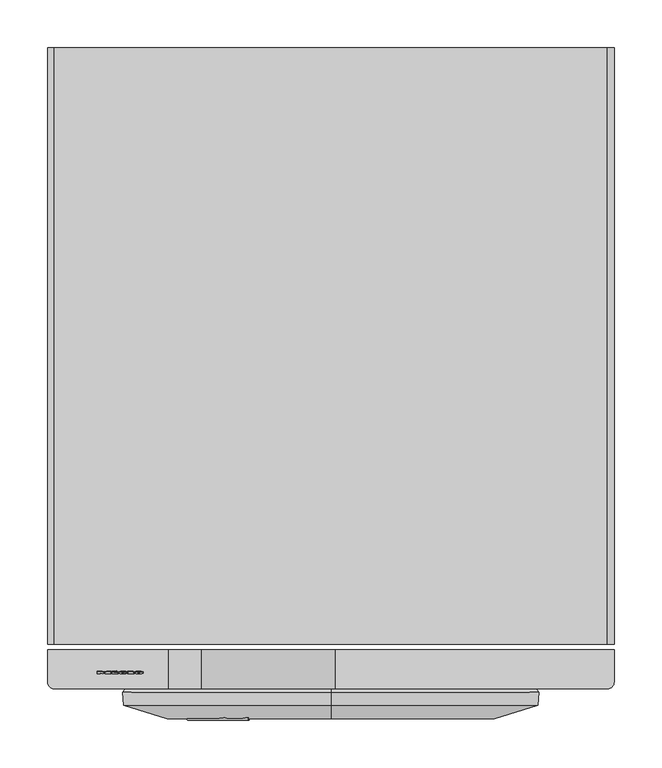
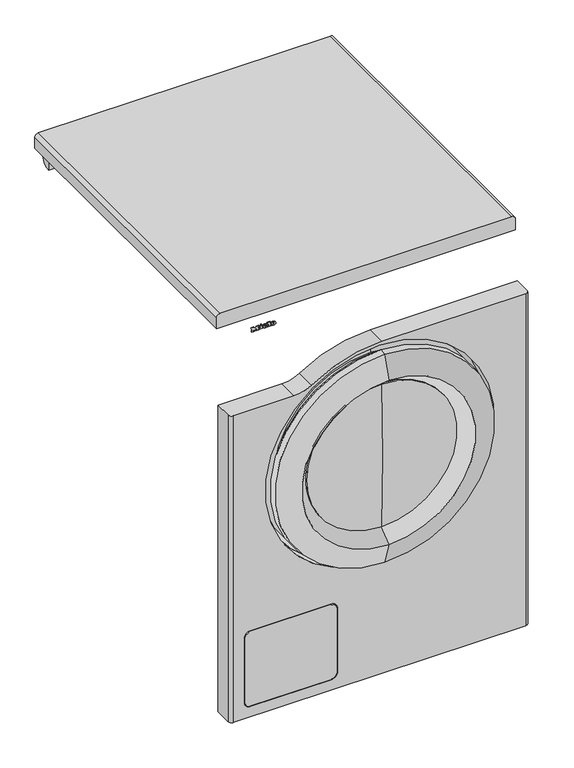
"""IFC4 building model written with IfcOpenShell, lengths in millimetres: proxy geometry, 11073250_S_PWM906DV_LW : 51906252_S_11073250_PWM906DV_LW."""

from ifc_helpers import new_model, si_unit, point, frame, frame_2d, origin, place, context, project, spatial, polyline, circle_curve, ellipse_curve, trimmed, segment, composite_curve, outline, extrude, source, transform, mapped, element, save
from ifc_brep_helpers import plane_surface, cylinder_surface, revolved_surface, extruded_surface, advanced_brep


def specialty_equipment_5f2c54f2(model_context):
    return source(origin(), model_context, "Body", "SolidModel", [
        advanced_brep(
        [(298.0, -637.0, 712.0), (298.0, -637.0, 13.5), (-298.0, -637.0, 13.5), (-298.0, -637.0, 659.0), (-170.4793435, -637.0, 659.0), (-135.8816811, -637.0, 669.4495268), (5.0, -637.0, 712.0), (0.0, -637.0, 628.0), (0.0, -637.0, 328.0), (-97.8720399, -637.0, 194.7938843), (-257.5266894, -637.0, 194.7938843), (-269.1610931, -637.0, 183.1594806), (-269.1610931, -637.0, 47.2319133), (-257.1610931, -637.0, 35.2319133), (-96.1598327, -637.0, 35.2319133), (-84.1993866, -637.0, 47.1923594), (-84.1993866, -637.0, 184.6186728), (-291.0, -678.0, 13.5), (291.0, -678.0, 13.5), (291.0, -678.0, 712.0), (5.0, -678.0, 712.0), (-135.8816811, -678.0, 669.4495268), (-170.4793435, -678.0, 659.0), (-291.0, -678.0, 659.0), (0.0, -678.0, 250.5), (0.0, -678.0, 705.5), (-257.5266894, -678.0, 194.7938843), (-97.8720399, -678.0, 194.7938843), (-84.1993866, -678.0, 184.6186728), (-84.1993866, -678.0, 47.1923594), (-96.1598327, -678.0, 35.2319133), (-257.1610931, -678.0, 35.2319133), (-269.1610931, -678.0, 47.2319133), (-269.1610931, -678.0, 183.1594806), (298.0, -671.0, 712.0), (-298.0, -671.0, 13.5), (-298.0, -671.0, 659.0), (298.0, -671.0, 13.5), (0.0, -653.2, 705.5), (0.0, -653.2, 250.5), (0.0, -645.7, 671.0), (0.0, -645.7, 698.0), (0.0, -645.7, 258.0), (0.0, -645.7, 285.0), (0.0, -638.7, 289.0414519), (0.0, -638.7, 666.9585481), (0.0, -638.7, 322.8), (0.0, -638.7, 633.2), (0.0, -648.5, 322.8), (0.0, -648.5, 633.2), (0.0, -648.5, 341.8), (0.0, -648.5, 614.2), (0.0, -646.0, 341.8), (0.0, -646.0, 614.2), (0.0, -646.0, 328.0), (0.0, -646.0, 628.0)],
        [
            (0, 1),
            (1, 2),
            (2, 3),
            (3, 4),
            (4, 5, circle_curve(frame((-170.4793435, -637.0, 721.5), z_axis=(0.0, -1.0, 0.0), x_axis=(1.0, 0.0, 0.0)), 62.5)),
            (5, 6, circle_curve(frame((5.0, -637.0, 457.5), z_axis=(0.0, 1.0, 0.0), x_axis=(1.0, 0.0, 0.0)), 254.5)),
            (6, 0),
            (7, 8, circle_curve(frame((0.0, -637.0, 478.0), z_axis=(0.0, -1.0, 0.0), x_axis=(0.0, 0.0, -1.0)), 150.0)),
            (8, 7, circle_curve(frame((0.0, -637.0, 478.0), z_axis=(0.0, -1.0, 0.0), x_axis=(0.0, 0.0, -1.0)), 150.0)),
            (9, 10),
            (10, 11, circle_curve(frame((-257.5266894, -637.0, 183.1594806), z_axis=(0.0, -1.0, 0.0), x_axis=(1.0, 0.0, 0.0)), 11.6344037)),
            (11, 12),
            (12, 13, circle_curve(frame((-257.1610931, -637.0, 47.2319133), z_axis=(0.0, -1.0, 0.0), x_axis=(1.0, 0.0, 0.0)), 12.0)),
            (13, 14),
            (14, 15, circle_curve(frame((-96.1598327, -637.0, 47.1923594), z_axis=(0.0, -1.0, 0.0), x_axis=(1.0, 0.0, 0.0)), 11.9604461)),
            (15, 16),
            (16, 9, circle_curve(frame((-97.8720399, -637.0, 180.5201576), z_axis=(0.0, -1.0, 0.0), x_axis=(1.0, 0.0, 0.0)), 14.2737268)),
            (17, 18),
            (18, 19),
            (19, 20),
            (20, 21, circle_curve(frame((5.0, -678.0, 457.5), z_axis=(0.0, -1.0, 0.0), x_axis=(1.0, 0.0, 0.0)), 254.5)),
            (21, 22, circle_curve(frame((-170.4793435, -678.0, 721.5), z_axis=(0.0, 1.0, 0.0), x_axis=(1.0, 0.0, 0.0)), 62.5)),
            (22, 23),
            (23, 17),
            (24, 25, circle_curve(frame((0.0, -678.0, 478.0), z_axis=(0.0, 1.0, 0.0), x_axis=(0.0, 0.0, -1.0)), 227.5)),
            (25, 24, circle_curve(frame((0.0, -678.0, 478.0), z_axis=(0.0, 1.0, 0.0), x_axis=(0.0, 0.0, -1.0)), 227.5)),
            (26, 27),
            (27, 28, circle_curve(frame((-97.8720399, -678.0, 180.5201576), z_axis=(0.0, 1.0, 0.0), x_axis=(1.0, 0.0, 0.0)), 14.2737268)),
            (28, 29),
            (29, 30, circle_curve(frame((-96.1598327, -678.0, 47.1923594), z_axis=(0.0, 1.0, 0.0), x_axis=(1.0, 0.0, 0.0)), 11.9604461)),
            (30, 31),
            (31, 32, circle_curve(frame((-257.1610931, -678.0, 47.2319133), z_axis=(0.0, 1.0, 0.0), x_axis=(1.0, 0.0, 0.0)), 12.0)),
            (32, 33),
            (33, 26, circle_curve(frame((-257.5266894, -678.0, 183.1594806), z_axis=(0.0, 1.0, 0.0), x_axis=(1.0, 0.0, 0.0)), 11.6344037)),
            (34, 0),
            (6, 20),
            (19, 34, circle_curve(frame((291.0, -671.0, 712.0), z_axis=(0.0, 0.0, 1.0), x_axis=(-1.0, 0.0, 0.0)), 7.0)),
            (2, 35),
            (35, 36),
            (36, 3),
            (1, 37),
            (37, 18, circle_curve(frame((291.0, -671.0, 13.5), z_axis=(0.0, 0.0, -1.0), x_axis=(-1.0, 0.0, 0.0)), 7.0)),
            (17, 35, circle_curve(frame((-291.0, -671.0, 13.5), z_axis=(0.0, 0.0, -1.0), x_axis=(-1.0, 0.0, 0.0)), 7.0)),
            (34, 37),
            (38, 25),
            (24, 39),
            (39, 38, circle_curve(frame((0.0, -653.2, 478.0), z_axis=(0.0, 1.0, 0.0), x_axis=(0.0, 0.0, -1.0)), 227.5)),
            (38, 39, circle_curve(frame((0.0, -653.2, 478.0), z_axis=(0.0, 1.0, 0.0), x_axis=(0.0, 0.0, -1.0)), 227.5)),
            (40, 41),
            (41, 42, circle_curve(frame((0.0, -645.7, 478.0), z_axis=(0.0, -1.0, 0.0), x_axis=(0.0, 0.0, -1.0)), 220.0)),
            (42, 43),
            (43, 40, circle_curve(frame((0.0, -645.7, 478.0), z_axis=(0.0, 1.0, 0.0), x_axis=(0.0, 0.0, -1.0)), 193.0)),
            (40, 43, circle_curve(frame((0.0, -645.7, 478.0), z_axis=(0.0, 1.0, 0.0), x_axis=(0.0, 0.0, -1.0)), 193.0)),
            (42, 41, circle_curve(frame((0.0, -645.7, 478.0), z_axis=(0.0, -1.0, 0.0), x_axis=(0.0, 0.0, -1.0)), 220.0)),
            (43, 44),
            (44, 45, circle_curve(frame((0.0, -638.7, 478.0), z_axis=(0.0, 1.0, 0.0), x_axis=(0.0, 0.0, -1.0)), 188.9585481)),
            (45, 40),
            (45, 44, circle_curve(frame((0.0, -638.7, 478.0), z_axis=(0.0, 1.0, 0.0), x_axis=(0.0, 0.0, -1.0)), 188.9585481)),
            (44, 46),
            (46, 47, circle_curve(frame((0.0, -638.7, 478.0), z_axis=(0.0, 1.0, 0.0), x_axis=(0.0, 0.0, -1.0)), 155.2)),
            (47, 45),
            (47, 46, circle_curve(frame((0.0, -638.7, 478.0), z_axis=(0.0, 1.0, 0.0), x_axis=(0.0, 0.0, -1.0)), 155.2)),
            (46, 48),
            (48, 49, circle_curve(frame((0.0, -648.5, 478.0), z_axis=(0.0, 1.0, 0.0), x_axis=(0.0, 0.0, -1.0)), 155.2)),
            (49, 47),
            (49, 48, circle_curve(frame((0.0, -648.5, 478.0), z_axis=(0.0, 1.0, 0.0), x_axis=(0.0, 0.0, -1.0)), 155.2)),
            (48, 50),
            (50, 51, circle_curve(frame((0.0, -648.5, 478.0), z_axis=(0.0, 1.0, 0.0), x_axis=(0.0, 0.0, -1.0)), 136.2)),
            (51, 49),
            (51, 50, circle_curve(frame((0.0, -648.5, 478.0), z_axis=(0.0, 1.0, 0.0), x_axis=(0.0, 0.0, -1.0)), 136.2)),
            (50, 52),
            (52, 53, circle_curve(frame((0.0, -646.0, 478.0), z_axis=(0.0, 1.0, 0.0), x_axis=(0.0, 0.0, -1.0)), 136.2)),
            (53, 51),
            (53, 52, circle_curve(frame((0.0, -646.0, 478.0), z_axis=(0.0, 1.0, 0.0), x_axis=(0.0, 0.0, -1.0)), 136.2)),
            (52, 54),
            (54, 55, circle_curve(frame((0.0, -646.0, 478.0), z_axis=(0.0, 1.0, 0.0), x_axis=(0.0, 0.0, -1.0)), 150.0)),
            (55, 53),
            (55, 54, circle_curve(frame((0.0, -646.0, 478.0), z_axis=(0.0, 1.0, 0.0), x_axis=(0.0, 0.0, -1.0)), 150.0)),
            (54, 8),
            (7, 55),
            (39, 42, circle_curve(frame((0.0, -653.2, 258.0), z_axis=(1.0, 0.0, 0.0), x_axis=(0.0, 1.0, 0.0)), 7.5)),
            (41, 38, circle_curve(frame((0.0, -653.2, 698.0), z_axis=(1.0, 0.0, 0.0), x_axis=(0.0, 1.0, 0.0)), 7.5)),
            (23, 36, circle_curve(frame((-291.0, -671.0, 659.0), z_axis=(0.0, 0.0, -1.0), x_axis=(-1.0, 0.0, 0.0)), 7.0)),
            (5, 21),
            (4, 22),
            (26, 10),
            (9, 27),
            (33, 11),
            (32, 12),
            (31, 13),
            (30, 14),
            (29, 15),
            (28, 16),
        ],
        [
            plane_surface(frame((-298.0, -637.0, 712.0), z_axis=(0.0, 1.0, 0.0), x_axis=(1.0, 0.0, 0.0))),
            plane_surface(frame((-298.0, -678.0, 712.0), z_axis=(0.0, -1.0, 0.0), x_axis=(-1.0, 0.0, 0.0))),
            plane_surface(frame((298.0, -678.0, 712.0), z_axis=(0.0, 0.0, 1.0), x_axis=(0.0, 1.0, 0.0))),
            plane_surface(frame((-298.0, -678.0, 712.0), z_axis=(-1.0, 0.0, 0.0), x_axis=(0.0, 1.0, 0.0))),
            plane_surface(frame((-298.0, -678.0, 13.5), z_axis=(0.0, 0.0, -1.0), x_axis=(0.0, 1.0, 0.0))),
            plane_surface(frame((298.0, -678.0, 13.5), z_axis=(1.0, 0.0, 0.0), x_axis=(0.0, 1.0, 0.0))),
            revolved_surface(polyline([(0.0, -653.2000000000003, 250.5), (0.0, -678.0, 250.5)]), (0.0, 1543.3738435, 478.0), (0.0, 1.0, 0.0)),
            plane_surface(frame((0.0, -645.7, 478.0), z_axis=(0.0, -1.0, 0.0), x_axis=(0.0, 0.0, -1.0))),
            revolved_surface(polyline([(0.0, -638.7, 289.0414519), (0.0, -645.7, 285.0)]), (0.0, 1543.3738435, 478.0), (0.0, 1.0, 0.0)),
            plane_surface(frame((0.0, -638.7, 478.0), z_axis=(0.0, -1.0, 0.0), x_axis=(0.0, 0.0, -1.0))),
            cylinder_surface(frame((0.0, 1543.3738435, 478.0), z_axis=(0.0, 1.0, 0.0), x_axis=(0.0, 0.0, -1.0)), 155.2),
            plane_surface(frame((0.0, -648.5, 478.0), z_axis=(0.0, -1.0, 0.0), x_axis=(0.0, 0.0, -1.0))),
            revolved_surface(polyline([(0.0, -646.0, 341.8), (0.0, -648.5, 341.8)]), (0.0, 1543.3738435, 478.0), (0.0, 1.0, 0.0)),
            plane_surface(frame((0.0, -646.0, 478.0), z_axis=(0.0, 1.0, 0.0), x_axis=(0.0, 0.0, -1.0))),
            revolved_surface(polyline([(0.0, -637.0, 328.0), (0.0, -646.0, 328.0)]), (0.0, 1543.3738435, 478.0), (0.0, 1.0, 0.0)),
            revolved_surface(trimmed(ellipse_curve(frame((0.0, -653.2, 258.0), z_axis=(-1.0, 0.0, 0.0), x_axis=(0.0, 1.0, 0.0)), 7.5, 7.5), [point((0.0, -645.7, 258.0))], [point((0.0, -653.2, 250.5))], True, "CARTESIAN"), (0.0, 1543.3738435, 478.0), (0.0, 1.0, 0.0)),
            cylinder_surface(frame((-291.0, -671.0, 712.0), z_axis=(0.0, 0.0, -1.0), x_axis=(-1.0, 0.0, 0.0)), 7.0),
            cylinder_surface(frame((291.0, -671.0, 712.0), z_axis=(0.0, 0.0, -1.0), x_axis=(-1.0, 0.0, 0.0)), 7.0),
            cylinder_surface(frame((5.0, -637.0, 457.5), z_axis=(0.0, 1.0, 0.0), x_axis=(1.0, 0.0, 0.0)), 254.5),
            revolved_surface(polyline([(-107.9793435, -678.0, 721.5), (-107.9793435, -637.0, 721.5)]), (-170.4793435, -637.0, 721.5), (0.0, -1.0, 0.0)),
            plane_surface(frame((-298.0, -678.0, 659.0), z_axis=(0.0, 0.0, 1.0), x_axis=(0.0, 1.0, 0.0))),
            plane_surface(frame((-97.8720399, -678.0, 194.7938843), z_axis=(0.0, 0.0, -1.0), x_axis=(0.0, 1.0, 0.0))),
            revolved_surface(polyline([(-245.8922857, -678.0, 183.1594806), (-245.8922857, -637.0, 183.1594806)]), (-257.5266894, -637.0, 183.1594806), (0.0, -1.0, 0.0)),
            plane_surface(frame((-269.1610931, -678.0, 183.1594806), z_axis=(1.0, 0.0, 0.0), x_axis=(0.0, 1.0, 0.0))),
            revolved_surface(polyline([(-245.16109310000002, -678.0, 47.2319133), (-245.16109310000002, -637.0, 47.2319133)]), (-257.1610931, -637.0, 47.2319133), (0.0, -1.0, 0.0)),
            plane_surface(frame((-257.1610931, -678.0, 35.2319133), z_axis=(0.0, 0.0, 1.0), x_axis=(0.0, 1.0, 0.0))),
            revolved_surface(polyline([(-84.1993866, -678.0, 47.1923594), (-84.1993866, -637.0, 47.1923594)]), (-96.1598327, -637.0, 47.1923594), (0.0, -1.0, 0.0)),
            plane_surface(frame((-84.1993866, -678.0, 47.1923594), z_axis=(-1.0, 0.0, 0.0), x_axis=(0.0, 1.0, 0.0))),
            revolved_surface(polyline([(-83.5983131, -678.0, 180.5201576), (-83.5983131, -637.0, 180.5201576)]), (-97.8720399, -637.0, 180.5201576), (0.0, -1.0, 0.0)),
        ],
        [
            (0, [[1, 2, 3, 4, 5, 6, 7], [8, 9], [10, 11, 12, 13, 14, 15, 16, 17]]),
            (1, [[18, 19, 20, 21, 22, 23, 24], [25, 26], [27, 28, 29, 30, 31, 32, 33, 34]]),
            (2, [[35, -7, 36, -20, 37]]),
            (3, [[38, 39, 40, -3]]),
            (4, [[-2, 41, 42, -18, 43, -38]]),
            (5, [[-1, -35, 44, -41]]),
            (6, [[45, -25, 46, 47]]),
            (6, [[-45, 48, -46, -26]]),
            (7, [[49, 50, 51, 52]]),
            (7, [[-49, 53, -51, 54]]),
            (8, [[-52, 55, 56, 57]]),
            (8, [[-53, -57, 58, -55]]),
            (9, [[-56, 59, 60, 61]]),
            (9, [[-58, -61, 62, -59]]),
            (10, [[-60, 63, 64, 65]]),
            (10, [[-62, -65, 66, -63]]),
            (11, [[-64, 67, 68, 69]]),
            (11, [[-66, -69, 70, -67]]),
            (12, [[-68, 71, 72, 73]]),
            (12, [[-70, -73, 74, -71]]),
            (13, [[-72, 75, 76, 77]]),
            (13, [[-74, -77, 78, -75]]),
            (14, [[-76, 79, -8, 80]]),
            (14, [[-78, -80, -9, -79]]),
            (15, [[-47, 81, -50, 82]]),
            (15, [[-48, -82, -54, -81]]),
            (16, [[-43, -24, 83, -39]]),
            (17, [[-19, -42, -44, -37]]),
            (18, [[84, -21, -36, -6]]),
            (19, [[-84, -5, 85, -22]]),
            (20, [[-85, -4, -40, -83, -23]]),
            (21, [[86, -10, 87, -27]]),
            (22, [[-86, -34, 88, -11]]),
            (23, [[-88, -33, 89, -12]]),
            (24, [[-89, -32, 90, -13]]),
            (25, [[-90, -31, 91, -14]]),
            (26, [[-91, -30, 92, -15]]),
            (27, [[-92, -29, 93, -16]]),
            (28, [[-87, -17, -93, -28]]),
        ],
    ),
        advanced_brep(
        [(-85.1993866, -637.0, 178.871588), (-85.1993866, -637.0, 49.2598644), (-98.2273377, -637.0, 36.2319133), (-257.1610931, -637.0, 36.2319133), (-268.1610931, -637.0, 47.2319133), (-268.1610931, -637.0, 180.922098), (-255.2893068, -637.0, 193.7938843), (-99.0652877, -637.0, 193.7938843), (-85.1993866, -678.0, 49.2598644), (-85.1993866, -678.0, 178.871588), (-99.0652877, -678.0, 193.7938843), (-255.2893068, -678.0, 193.7938843), (-268.1610931, -678.0, 180.922098), (-268.1610931, -678.0, 47.2319133), (-257.1610931, -678.0, 36.2319133), (-98.2273377, -678.0, 36.2319133)],
        [
            (0, 1),
            (1, 2, circle_curve(frame((-98.2273377, -637.0, 49.2598644), z_axis=(0.0, 1.0, 0.0), x_axis=(1.0, 0.0, 0.0)), 13.0279511)),
            (2, 3),
            (3, 4, circle_curve(frame((-257.1610931, -637.0, 47.2319133), z_axis=(0.0, 1.0, 0.0), x_axis=(1.0, 0.0, 0.0)), 11.0)),
            (4, 5),
            (5, 6, circle_curve(frame((-255.2893068, -637.0, 180.922098), z_axis=(0.0, 1.0, 0.0), x_axis=(1.0, 0.0, 0.0)), 12.8717863)),
            (6, 7),
            (7, 0, circle_curve(frame((-99.9078885, -637.0, 179.10764), z_axis=(0.0, 1.0, 0.0), x_axis=(1.0, 0.0, 0.0)), 14.7103959)),
            (8, 9),
            (9, 10, circle_curve(frame((-99.9078885, -678.0, 179.10764), z_axis=(0.0, -1.0, 0.0), x_axis=(1.0, 0.0, 0.0)), 14.7103959)),
            (10, 11),
            (11, 12, circle_curve(frame((-255.2893068, -678.0, 180.922098), z_axis=(0.0, -1.0, 0.0), x_axis=(1.0, 0.0, 0.0)), 12.8717863)),
            (12, 13),
            (13, 14, circle_curve(frame((-257.1610931, -678.0, 47.2319133), z_axis=(0.0, -1.0, 0.0), x_axis=(1.0, 0.0, 0.0)), 11.0)),
            (14, 15),
            (15, 8, circle_curve(frame((-98.2273377, -678.0, 49.2598644), z_axis=(0.0, -1.0, 0.0), x_axis=(1.0, 0.0, 0.0)), 13.0279511)),
            (8, 1),
            (0, 9),
            (15, 2),
            (14, 3),
            (13, 4),
            (12, 5),
            (11, 6),
            (10, 7),
        ],
        [
            plane_surface(frame((-298.0, -637.0, 712.0), z_axis=(0.0, 1.0, 0.0), x_axis=(1.0, 0.0, 0.0))),
            plane_surface(frame((-298.0, -678.0, 712.0), z_axis=(0.0, -1.0, 0.0), x_axis=(-1.0, 0.0, 0.0))),
            plane_surface(frame((-85.1993866, -678.0, 178.871588), z_axis=(1.0, 0.0, 0.0), x_axis=(0.0, 1.0, 0.0))),
            cylinder_surface(frame((-98.2273377, 0.0, 49.2598644), z_axis=(0.0, 1.0, 0.0), x_axis=(1.0, 0.0, 0.0)), 13.0279511),
            plane_surface(frame((-98.2273377, -678.0, 36.2319133), z_axis=(0.0, 0.0, -1.0), x_axis=(0.0, 1.0, 0.0))),
            cylinder_surface(frame((-257.1610931, 0.0, 47.2319133), z_axis=(0.0, 1.0, 0.0), x_axis=(1.0, 0.0, 0.0)), 11.0),
            plane_surface(frame((-268.1610931, -678.0, 47.2319133), z_axis=(-1.0, 0.0, 0.0), x_axis=(0.0, 1.0, 0.0))),
            cylinder_surface(frame((-255.2893068, 0.0, 180.922098), z_axis=(0.0, 1.0, 0.0), x_axis=(1.0, 0.0, 0.0)), 12.8717863),
            plane_surface(frame((-255.2893068, -678.0, 193.7938843), z_axis=(0.0, 0.0, 1.0), x_axis=(0.0, 1.0, 0.0))),
            cylinder_surface(frame((-99.9078885, 0.0, 179.10764), z_axis=(0.0, 1.0, 0.0), x_axis=(1.0, 0.0, 0.0)), 14.7103959),
        ],
        [
            (0, [[1, 2, 3, 4, 5, 6, 7, 8]]),
            (1, [[9, 10, 11, 12, 13, 14, 15, 16]]),
            (2, [[17, -1, 18, -9]]),
            (3, [[-17, -16, 19, -2]]),
            (4, [[-19, -15, 20, -3]]),
            (5, [[-20, -14, 21, -4]]),
            (6, [[-21, -13, 22, -5]]),
            (7, [[-22, -12, 23, -6]]),
            (8, [[-23, -11, 24, -7]]),
            (9, [[-18, -8, -24, -10]]),
        ],
    ),
        advanced_brep(
        [(-202.64, -661.6785086, 811.5729364), (-202.64, -661.5105159, 812.3632796), (-197.288, -661.5105159, 812.3632796), (-206.6, -661.5105159, 812.3632796), (-204.4, -662.0727091, 809.7183685), (-197.424, -661.6785086, 811.5729364), (-199.84, -661.6785086, 811.5729364), (-201.744, -661.8647975, 810.6965161), (-202.64, -661.2976144, 813.3649028), (-202.64, -661.1163154, 814.2178475), (-201.272, -661.1163154, 814.2178475), (-201.272, -661.2976144, 813.3649028), (-202.64, -660.700361, 811.3650247), (-201.744, -660.8866499, 810.4886044), (-199.84, -660.700361, 811.3650247), (-197.424, -660.700361, 811.3650247), (-204.4, -661.0945615, 809.5104568), (-206.6, -660.5323683, 812.1553679), (-197.288, -660.5323683, 812.1553679), (-202.64, -660.5323683, 812.1553679), (-202.64, -660.3194668, 813.1569911), (-201.272, -660.3194668, 813.1569911), (-201.272, -660.1381678, 814.0099358), (-202.64, -660.1381678, 814.0099358)],
        [
            (0, 1),
            (1, 2),
            (2, 3, ellipse_curve(frame((-201.944, -661.5105159, 812.3632796), z_axis=(0.0, -0.9781476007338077, 0.2079116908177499), x_axis=(-1.0, 0.0, 0.0)), 4.656, 3.848)),
            (3, 4, circle_curve(frame((-203.5039564, -661.453964, 812.6293358), z_axis=(0.0, -0.9781476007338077, 0.2079116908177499), x_axis=(0.0, -0.2079116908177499, -0.9781476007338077)), 3.1079688)),
            (4, 5, circle_curve(frame((-202.0372064, -661.0148545, 814.6951835), z_axis=(0.0, -0.9781476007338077, 0.2079116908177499), x_axis=(0.0, -0.2079116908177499, -0.9781476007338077)), 5.6098607)),
            (5, 6),
            (6, 7, circle_curve(frame((-201.3529412, -661.5238223, 812.3006782), z_axis=(0.0, 0.9781476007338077, -0.2079116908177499), x_axis=(0.0, -0.2079116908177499, -0.9781476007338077)), 1.6859795)),
            (7, 0, circle_curve(frame((-201.744, -661.6785086, 811.5729364), z_axis=(0.0, 0.9781476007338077, -0.2079116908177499), x_axis=(0.0, -0.2079116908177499, -0.9781476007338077)), 0.896)),
            (8, 9),
            (9, 10, circle_curve(frame((-201.956, -661.1163154, 814.2178475), z_axis=(0.0, 0.9781476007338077, -0.2079116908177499), x_axis=(0.0, -0.2079116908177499, -0.9781476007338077)), 0.684)),
            (10, 11),
            (11, 8),
            (12, 13, circle_curve(frame((-201.744, -660.700361, 811.3650247), z_axis=(0.0, -0.9781476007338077, 0.2079116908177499), x_axis=(0.0, -0.2079116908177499, -0.9781476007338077)), 0.896)),
            (13, 14, circle_curve(frame((-201.3529412, -660.5456747, 812.0927665), z_axis=(0.0, -0.9781476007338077, 0.2079116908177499), x_axis=(0.0, -0.2079116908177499, -0.9781476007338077)), 1.6859795)),
            (14, 15),
            (15, 16, circle_curve(frame((-202.0372064, -660.0367069, 814.4872718), z_axis=(0.0, 0.9781476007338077, -0.2079116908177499), x_axis=(0.0, -0.2079116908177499, -0.9781476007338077)), 5.6098607)),
            (16, 17, circle_curve(frame((-203.5039564, -660.4758164, 812.4214241), z_axis=(0.0, 0.9781476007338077, -0.2079116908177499), x_axis=(0.0, -0.2079116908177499, -0.9781476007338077)), 3.1079688)),
            (17, 18, ellipse_curve(frame((-201.944, -660.5323683, 812.1553679), z_axis=(0.0, 0.9781476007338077, -0.2079116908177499), x_axis=(-1.0, 0.0, 0.0)), 4.656, 3.848)),
            (18, 19),
            (19, 12),
            (20, 21),
            (21, 22),
            (22, 23, circle_curve(frame((-201.956, -660.1381678, 814.0099358), z_axis=(0.0, -0.9781476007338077, 0.2079116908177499), x_axis=(0.0, -0.2079116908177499, -0.9781476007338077)), 0.684)),
            (23, 20),
            (0, 12),
            (19, 1),
            (18, 2),
            (5, 15),
            (14, 6),
            (17, 3),
            (13, 7),
            (16, 4),
            (8, 20),
            (23, 9),
            (22, 10),
            (21, 11),
        ],
        [
            plane_surface(frame((-202.64, -661.5105159, 812.3632796), z_axis=(0.0, -0.9781476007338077, 0.2079116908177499), x_axis=(0.0, 0.2079116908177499, 0.9781476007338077))),
            plane_surface(frame((-202.64, -660.5323683, 812.1553679), z_axis=(0.0, 0.9781476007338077, -0.2079116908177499), x_axis=(0.0, -0.2079116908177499, -0.9781476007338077))),
            plane_surface(frame((-202.64, -661.6785086, 811.5729364), z_axis=(1.0000000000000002, 0.0, 0.0), x_axis=(0.0, 0.978147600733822, -0.20791169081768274))),
            plane_surface(frame((-202.64, -661.5105159, 812.3632796), z_axis=(0.0, -0.20791169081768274, -0.978147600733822), x_axis=(0.0, 0.978147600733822, -0.20791169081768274))),
            plane_surface(frame((-197.424, -661.6785086, 811.5729364), z_axis=(0.0, 0.20791169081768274, 0.978147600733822), x_axis=(0.0, 0.978147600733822, -0.20791169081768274))),
            extruded_surface(trimmed(ellipse_curve(frame((-201.944, -659.5542207, 811.9474562), z_axis=(0.0, -0.9781476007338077, 0.2079116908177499), x_axis=(-1.0, 0.0, 0.0)), 4.656, 3.848), [point((-197.288, -659.5542207, 811.9474562))], [point((-206.6, -659.5542207, 811.9474562))], True, "CARTESIAN"), (0.0, -0.9781476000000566, 0.20791169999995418), 1.0000000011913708),
            revolved_surface(polyline([(-201.3529412, -660.896209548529, 810.4436296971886), (-201.3529412, -661.8743571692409, 810.6515413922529)]), (-201.3529412, -660.5456747, 812.0927665), (0.0, 0.9781476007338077, -0.2079116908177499)),
            revolved_surface(polyline([(-201.744, -660.8866498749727, 810.4886044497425), (-201.744, -661.8647974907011, 810.6965161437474)]), (-201.744, -660.700361, 811.3650247), (0.0, 0.9781476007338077, -0.2079116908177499)),
            cylinder_surface(frame((-203.5039564, -660.4758164, 812.4214241), z_axis=(0.0, -0.9781476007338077, 0.2079116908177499), x_axis=(0.0, -0.2079116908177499, -0.9781476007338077)), 3.1079688),
            cylinder_surface(frame((-202.0372064, -660.0367069, 814.4872718), z_axis=(0.0, -0.9781476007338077, 0.2079116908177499), x_axis=(0.0, -0.2079116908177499, -0.9781476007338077)), 5.6098607),
            plane_surface(frame((-202.64, -661.2976144, 813.3649028), z_axis=(1.0000000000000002, 0.0, 0.0), x_axis=(0.0, 0.9781476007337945, -0.20791169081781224))),
            revolved_surface(polyline([(-201.956, -660.2803793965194, 813.340882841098), (-201.956, -661.2585269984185, 813.5487945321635)]), (-201.956, -660.1381678, 814.0099358), (0.0, 0.9781476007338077, -0.2079116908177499)),
            plane_surface(frame((-201.272, -661.1163154, 814.2178475), z_axis=(-1.0000000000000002, 0.0, 0.0), x_axis=(0.0, 0.978147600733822, -0.20791169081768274))),
            plane_surface(frame((-201.272, -661.2976144, 813.3649028), z_axis=(0.0, 0.20791169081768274, 0.978147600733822), x_axis=(0.0, 0.978147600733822, -0.20791169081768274))),
        ],
        [
            (0, [[1, 2, 3, 4, 5, 6, 7, 8], [9, 10, 11, 12]]),
            (1, [[13, 14, 15, 16, 17, 18, 19, 20], [21, 22, 23, 24]]),
            (2, [[-1, 25, -20, 26]]),
            (3, [[-2, -26, -19, 27]]),
            (4, [[-6, 28, -15, 29]]),
            (5, [[-3, -27, -18, 30]]),
            (6, [[-7, -29, -14, 31]]),
            (7, [[-8, -31, -13, -25]]),
            (8, [[-4, -30, -17, 32]]),
            (9, [[-5, -32, -16, -28]]),
            (10, [[-9, 33, -24, 34]]),
            (11, [[-10, -34, -23, 35]]),
            (12, [[-11, -35, -22, 36]]),
            (13, [[-12, -36, -21, -33]]),
        ],
    ),
        advanced_brep(
        [(-219.336, -661.6785086, 811.5729364), (-219.336, -661.5105159, 812.3632796), (-213.984, -661.5105159, 812.3632796), (-223.296, -661.5105159, 812.3632796), (-221.096, -662.0727091, 809.7183685), (-214.12, -661.6785086, 811.5729364), (-216.536, -661.6785086, 811.5729364), (-218.44, -661.8647975, 810.6965161), (-219.336, -661.2976144, 813.3649028), (-219.336, -661.1163154, 814.2178475), (-217.968, -661.1163154, 814.2178475), (-217.968, -661.2976144, 813.3649028), (-219.336, -660.700361, 811.3650247), (-218.44, -660.8866499, 810.4886044), (-216.536, -660.700361, 811.3650247), (-214.12, -660.700361, 811.3650247), (-221.096, -661.0945615, 809.5104568), (-223.296, -660.5323683, 812.1553679), (-213.984, -660.5323683, 812.1553679), (-219.336, -660.5323683, 812.1553679), (-219.336, -660.3194668, 813.1569911), (-217.968, -660.3194668, 813.1569911), (-217.968, -660.1381678, 814.0099358), (-219.336, -660.1381678, 814.0099358)],
        [
            (0, 1),
            (1, 2),
            (2, 3, ellipse_curve(frame((-218.64, -661.5105159, 812.3632796), z_axis=(0.0, -0.9781476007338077, 0.2079116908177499), x_axis=(-1.0, 0.0, 0.0)), 4.656, 3.848)),
            (3, 4, circle_curve(frame((-220.1999564, -661.453964, 812.6293358), z_axis=(0.0, -0.9781476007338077, 0.2079116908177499), x_axis=(0.0, -0.2079116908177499, -0.9781476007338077)), 3.1079688)),
            (4, 5, circle_curve(frame((-218.7332064, -661.0148545, 814.6951835), z_axis=(0.0, -0.9781476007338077, 0.2079116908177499), x_axis=(0.0, -0.2079116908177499, -0.9781476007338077)), 5.6098607)),
            (5, 6),
            (6, 7, circle_curve(frame((-218.0489412, -661.5238223, 812.3006782), z_axis=(0.0, 0.9781476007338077, -0.2079116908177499), x_axis=(0.0, -0.2079116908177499, -0.9781476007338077)), 1.6859795)),
            (7, 0, circle_curve(frame((-218.44, -661.6785086, 811.5729364), z_axis=(0.0, 0.9781476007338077, -0.2079116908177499), x_axis=(0.0, -0.2079116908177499, -0.9781476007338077)), 0.896)),
            (8, 9),
            (9, 10, circle_curve(frame((-218.652, -661.1163154, 814.2178475), z_axis=(0.0, 0.9781476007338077, -0.2079116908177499), x_axis=(0.0, -0.2079116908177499, -0.9781476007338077)), 0.684)),
            (10, 11),
            (11, 8),
            (12, 13, circle_curve(frame((-218.44, -660.700361, 811.3650247), z_axis=(0.0, -0.9781476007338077, 0.2079116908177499), x_axis=(0.0, -0.2079116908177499, -0.9781476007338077)), 0.896)),
            (13, 14, circle_curve(frame((-218.0489412, -660.5456747, 812.0927665), z_axis=(0.0, -0.9781476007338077, 0.2079116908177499), x_axis=(0.0, -0.2079116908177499, -0.9781476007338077)), 1.6859795)),
            (14, 15),
            (15, 16, circle_curve(frame((-218.7332064, -660.0367069, 814.4872718), z_axis=(0.0, 0.9781476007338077, -0.2079116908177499), x_axis=(0.0, -0.2079116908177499, -0.9781476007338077)), 5.6098607)),
            (16, 17, circle_curve(frame((-220.1999564, -660.4758164, 812.4214241), z_axis=(0.0, 0.9781476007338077, -0.2079116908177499), x_axis=(0.0, -0.2079116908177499, -0.9781476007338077)), 3.1079688)),
            (17, 18, ellipse_curve(frame((-218.64, -660.5323683, 812.1553679), z_axis=(0.0, 0.9781476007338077, -0.2079116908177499), x_axis=(-1.0, 0.0, 0.0)), 4.656, 3.848)),
            (18, 19),
            (19, 12),
            (20, 21),
            (21, 22),
            (22, 23, circle_curve(frame((-218.652, -660.1381678, 814.0099358), z_axis=(0.0, -0.9781476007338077, 0.2079116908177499), x_axis=(0.0, -0.2079116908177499, -0.9781476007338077)), 0.684)),
            (23, 20),
            (0, 12),
            (19, 1),
            (18, 2),
            (5, 15),
            (14, 6),
            (17, 3),
            (13, 7),
            (16, 4),
            (8, 20),
            (23, 9),
            (22, 10),
            (21, 11),
        ],
        [
            plane_surface(frame((-219.336, -661.5105159, 812.3632796), z_axis=(0.0, -0.9781476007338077, 0.2079116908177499), x_axis=(0.0, 0.2079116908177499, 0.9781476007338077))),
            plane_surface(frame((-219.336, -660.5323683, 812.1553679), z_axis=(0.0, 0.9781476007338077, -0.2079116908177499), x_axis=(0.0, -0.2079116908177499, -0.9781476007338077))),
            plane_surface(frame((-219.336, -661.6785086, 811.5729364), z_axis=(1.0000000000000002, 0.0, 0.0), x_axis=(0.0, 0.978147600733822, -0.20791169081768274))),
            plane_surface(frame((-219.336, -661.5105159, 812.3632796), z_axis=(0.0, -0.20791169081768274, -0.978147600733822), x_axis=(0.0, 0.978147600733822, -0.20791169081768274))),
            plane_surface(frame((-214.12, -661.6785086, 811.5729364), z_axis=(0.0, 0.20791169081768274, 0.978147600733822), x_axis=(0.0, 0.978147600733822, -0.20791169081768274))),
            extruded_surface(trimmed(ellipse_curve(frame((-218.64, -659.5542207, 811.9474562), z_axis=(0.0, -0.9781476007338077, 0.2079116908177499), x_axis=(-1.0, 0.0, 0.0)), 4.656, 3.848), [point((-213.984, -659.5542207, 811.9474562))], [point((-223.296, -659.5542207, 811.9474562))], True, "CARTESIAN"), (0.0, -0.9781476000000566, 0.20791169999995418), 1.0000000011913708),
            revolved_surface(polyline([(-218.0489412, -660.896209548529, 810.4436296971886), (-218.0489412, -661.8743571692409, 810.6515413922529)]), (-218.0489412, -660.5456747, 812.0927665), (0.0, 0.9781476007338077, -0.2079116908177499)),
            revolved_surface(polyline([(-218.44, -660.8866498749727, 810.4886044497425), (-218.44, -661.8647974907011, 810.6965161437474)]), (-218.44, -660.700361, 811.3650247), (0.0, 0.9781476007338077, -0.2079116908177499)),
            cylinder_surface(frame((-220.1999564, -660.4758164, 812.4214241), z_axis=(0.0, -0.9781476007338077, 0.2079116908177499), x_axis=(0.0, -0.2079116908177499, -0.9781476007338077)), 3.1079688),
            cylinder_surface(frame((-218.7332064, -660.0367069, 814.4872718), z_axis=(0.0, -0.9781476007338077, 0.2079116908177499), x_axis=(0.0, -0.2079116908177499, -0.9781476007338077)), 5.6098607),
            plane_surface(frame((-219.336, -661.2976144, 813.3649028), z_axis=(1.0000000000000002, 0.0, 0.0), x_axis=(0.0, 0.9781476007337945, -0.20791169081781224))),
            revolved_surface(polyline([(-218.652, -660.2803793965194, 813.340882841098), (-218.652, -661.2585269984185, 813.5487945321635)]), (-218.652, -660.1381678, 814.0099358), (0.0, 0.9781476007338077, -0.2079116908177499)),
            plane_surface(frame((-217.968, -661.1163154, 814.2178475), z_axis=(-1.0000000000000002, 0.0, 0.0), x_axis=(0.0, 0.978147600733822, -0.20791169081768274))),
            plane_surface(frame((-217.968, -661.2976144, 813.3649028), z_axis=(0.0, 0.20791169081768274, 0.978147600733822), x_axis=(0.0, 0.978147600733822, -0.20791169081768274))),
        ],
        [
            (0, [[1, 2, 3, 4, 5, 6, 7, 8], [9, 10, 11, 12]]),
            (1, [[13, 14, 15, 16, 17, 18, 19, 20], [21, 22, 23, 24]]),
            (2, [[-1, 25, -20, 26]]),
            (3, [[-2, -26, -19, 27]]),
            (4, [[-6, 28, -15, 29]]),
            (5, [[-3, -27, -18, 30]]),
            (6, [[-7, -29, -14, 31]]),
            (7, [[-8, -31, -13, -25]]),
            (8, [[-4, -30, -17, 32]]),
            (9, [[-5, -32, -16, -28]]),
            (10, [[-9, 33, -24, 34]]),
            (11, [[-10, -34, -23, 35]]),
            (12, [[-11, -35, -22, 36]]),
            (13, [[-12, -36, -21, -33]]),
        ],
    ),
        extrude(outline(polyline([(0.0, 0.0), (-0.0109087, -2.9993294), (-1.4390416, -2.9920868), (-1.4315307, 0.0), (0.0, 0.0)])), frame((-228.08, -659.5294023, 816.873952), z_axis=(0.0, -0.9781476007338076, 0.20791169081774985), x_axis=(-0.42472021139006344, 0.18822758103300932, 0.8855411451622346)), (0.0, 0.0, 1.0), 1.0),
        extrude(outline(polyline([(-0.4933908, 2.4141097), (-2.7800844, -2.4601583), (-7.0459742, -0.4588766), (-7.4401146, -1.2990179), (-8.6568709, -0.728194), (-5.976037, 4.9862153), (-4.7592806, 4.4153913), (-5.1636142, 3.5535223), (-2.1941494, 2.16044), (-1.7898157, 3.0223091), (-0.4933908, 2.4141097)])), frame((-228.08, -659.5294023, 816.873952), z_axis=(0.0, -0.9781476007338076, 0.20791169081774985), x_axis=(-0.42472021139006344, 0.18822758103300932, 0.8855411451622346)), (0.0, 0.0, 1.0), 1.0),
        extrude(outline(polyline([(0.0, 0.0), (0.0, -1.3039999), (-5.504, -1.3039999), (-5.504, 5.352), (-6.488, 5.352), (-6.488, 6.696), (0.0, 6.696), (0.0, 5.352), (-0.96, 5.352), (-0.96, 0.0), (0.0, 0.0)])), frame((-213.536, -659.7023849, 816.0601332), z_axis=(0.0, -0.9781476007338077, 0.2079116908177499), x_axis=(-1.0, 0.0, 0.0)), (0.0, 0.0, 1.0), 1.0),
        extrude(outline(polyline([(0.0, 0.0), (0.0, -1.3039999), (-5.576, -1.3039999), (-7.92, 1.6960001), (-10.256, -1.3039999), (-15.128, -1.3039999), (-15.128, 0.0), (-14.112, 0.0), (-14.112, 5.352), (-15.128, 5.352), (-15.128, 6.696), (-8.744, 6.696), (-8.744, 5.352), (-9.728, 5.352), (-9.728, 1.8807777), (-6.136, 6.696), (-2.56, 1.9488753), (-2.56, 5.352), (-3.52, 5.352), (-3.52, 6.696), (0.0, 6.696), (0.0, 5.352), (-0.968, 5.352), (-0.968, 0.0), (0.0, 0.0)])), frame((-246.0, -659.7023849, 816.0601332), z_axis=(0.0, -0.9781476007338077, 0.2079116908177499), x_axis=(-1.0, 0.0, 0.0)), (0.0, 0.0, 1.0), 1.0),
        advanced_brep(
        [(-86.5, -711.2, 627.8223949), (-86.5, -708.2, 627.8223949), (-149.8223949, -711.2, 564.5), (-149.8223949, -708.2, 564.5)],
        [
            (0, 1, circle_curve(frame((-86.5, -709.7, 627.8223949), z_axis=(0.8660254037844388, 0.0, 0.49999999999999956), x_axis=(0.0, 1.0, 0.0)), 1.5)),
            (1, 0, circle_curve(frame((-86.5, -709.7, 627.8223949), z_axis=(0.8660254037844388, 0.0, 0.49999999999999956), x_axis=(0.0, 1.0, 0.0)), 1.5)),
            (2, 3, circle_curve(frame((-149.8223949, -709.7, 564.5), z_axis=(-0.5000000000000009, 0.0, -0.8660254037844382), x_axis=(0.0, 1.0, 0.0)), 1.5)),
            (3, 2, circle_curve(frame((-149.8223949, -709.7, 564.5), z_axis=(-0.5000000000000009, 0.0, -0.8660254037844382), x_axis=(0.0, 1.0, 0.0)), 1.5)),
            (3, 1, circle_curve(frame((0.0, -708.2, 478.0), z_axis=(0.0, 1.0, 0.0), x_axis=(-0.49999999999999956, 0.0, 0.8660254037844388)), 173.0)),
            (0, 2, circle_curve(frame((0.0, -711.2, 478.0), z_axis=(0.0, -1.0, 0.0), x_axis=(-0.49999999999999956, 0.0, 0.8660254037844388)), 173.0)),
        ],
        [
            plane_surface(frame((0.0, 1543.3738435, 478.0), z_axis=(0.8660254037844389, 0.0, 0.4999999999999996), x_axis=(-0.4999999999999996, 0.0, 0.8660254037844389))),
            plane_surface(frame((0.0, 1543.3738435, 478.0), z_axis=(-0.5000000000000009, 0.0, -0.8660254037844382), x_axis=(-0.8660254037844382, 0.0, 0.5000000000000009))),
            revolved_surface(trimmed(ellipse_curve(frame((-86.5, -709.7, 627.8223949), z_axis=(-0.8660254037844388, 0.0, -0.49999999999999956), x_axis=(0.0, 1.0, 0.0)), 1.5, 1.5), [point((-86.5, -708.2, 627.8223949))], [point((-86.5, -711.2, 627.8223949))], True, "CARTESIAN"), (0.0, 1543.3738435, 478.0), (0.0, 1.0, 0.0)),
            revolved_surface(trimmed(ellipse_curve(frame((-86.5, -709.7, 627.8223949), z_axis=(-0.8660254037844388, 0.0, -0.49999999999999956), x_axis=(0.0, 1.0, 0.0)), 1.5, 1.5), [point((-86.5, -711.2, 627.8223949))], [point((-86.5, -708.2, 627.8223949))], True, "CARTESIAN"), (0.0, 1543.3738435, 478.0), (0.0, 1.0, 0.0)),
        ],
        [
            (0, [[1, 2]]),
            (1, [[3, 4]]),
            (2, [[5, -1, 6, -4]]),
            (3, [[-6, -2, -5, -3]]),
        ],
    ),
        advanced_brep(
        [(0.0, -669.2, 328.0), (0.0, -669.2, 628.0), (0.0, -681.5454628, 628.0), (0.0, -681.5454628, 328.0), (0.0, -669.2, 314.0), (0.0, -669.2, 642.0), (0.0, -666.0, 302.5), (0.0, -666.0, 653.5), (0.0, -666.0, 270.7782663), (0.0, -666.0, 685.2217337), (0.0, -681.8, 257.8), (0.0, -681.8, 698.2), (0.0, -695.2157986, 259.0), (0.0, -695.2157986, 697.0), (0.0, -709.667863, 304.9), (0.0, -709.667863, 651.1)],
        [
            (0, 1, circle_curve(frame((0.0, -669.2, 478.0), z_axis=(0.0, 1.0, 0.0), x_axis=(0.0, 0.0, 1.0)), 150.0)),
            (1, 2),
            (2, 3, circle_curve(frame((0.0, -681.5454628, 478.0), z_axis=(0.0, -1.0, 0.0), x_axis=(0.0, 0.0, 1.0)), 150.0)),
            (3, 0),
            (1, 0, circle_curve(frame((0.0, -669.2, 478.0), z_axis=(0.0, 1.0, 0.0), x_axis=(0.0, 0.0, 1.0)), 150.0)),
            (3, 2, circle_curve(frame((0.0, -681.5454628, 478.0), z_axis=(0.0, -1.0, 0.0), x_axis=(0.0, 0.0, 1.0)), 150.0)),
            (4, 5, circle_curve(frame((0.0, -669.2, 478.0), z_axis=(0.0, 1.0, 0.0), x_axis=(0.0, 0.0, 1.0)), 164.0)),
            (5, 1),
            (0, 4),
            (5, 4, circle_curve(frame((0.0, -669.2, 478.0), z_axis=(0.0, 1.0, 0.0), x_axis=(0.0, 0.0, 1.0)), 164.0)),
            (6, 7, circle_curve(frame((0.0, -666.0, 478.0), z_axis=(0.0, 1.0, 0.0), x_axis=(0.0, 0.0, 1.0)), 175.5)),
            (7, 5),
            (4, 6),
            (7, 6, circle_curve(frame((0.0, -666.0, 478.0), z_axis=(0.0, 1.0, 0.0), x_axis=(0.0, 0.0, 1.0)), 175.5)),
            (8, 9, circle_curve(frame((0.0, -666.0, 478.0), z_axis=(0.0, 1.0, 0.0), x_axis=(0.0, 0.0, 1.0)), 207.2217337)),
            (9, 7),
            (6, 8),
            (9, 8, circle_curve(frame((0.0, -666.0, 478.0), z_axis=(0.0, 1.0, 0.0), x_axis=(0.0, 0.0, 1.0)), 207.2217337)),
            (10, 11, circle_curve(frame((0.0, -681.8, 478.0), z_axis=(0.0, 1.0, 0.0), x_axis=(0.0, 0.0, 1.0)), 220.2)),
            (11, 9),
            (8, 10),
            (11, 10, circle_curve(frame((0.0, -681.8, 478.0), z_axis=(0.0, 1.0, 0.0), x_axis=(0.0, 0.0, 1.0)), 220.2)),
            (12, 13, circle_curve(frame((0.0, -695.2157986, 478.0), z_axis=(0.0, 1.0, 0.0), x_axis=(0.0, 0.0, 1.0)), 219.0)),
            (13, 11),
            (10, 12),
            (13, 12, circle_curve(frame((0.0, -695.2157986, 478.0), z_axis=(0.0, 1.0, 0.0), x_axis=(0.0, 0.0, 1.0)), 219.0)),
            (14, 15, circle_curve(frame((0.0, -709.667863, 478.0), z_axis=(0.0, 1.0, 0.0), x_axis=(0.0, 0.0, 1.0)), 173.1)),
            (15, 13, circle_curve(frame((0.0, -130.6, 494.0), z_axis=(-1.0, 0.0, 0.0), x_axis=(0.0, 1.0, 0.0)), 600.0)),
            (12, 14, circle_curve(frame((0.0, -130.6, 462.0), z_axis=(-1.0, 0.0, 0.0), x_axis=(0.0, 1.0, 0.0)), 600.0)),
            (15, 14, circle_curve(frame((0.0, -709.667863, 478.0), z_axis=(0.0, 1.0, 0.0), x_axis=(0.0, 0.0, 1.0)), 173.1)),
            (2, 15),
            (14, 3),
        ],
        [
            revolved_surface(polyline([(0.0, -681.5454628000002, 628.0), (0.0, -669.2000000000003, 628.0)]), (0.0, 1543.3738435, 478.0), (0.0, -1.0, 0.0)),
            plane_surface(frame((0.0, -669.2, 478.0), z_axis=(0.0, 1.0, 0.0), x_axis=(0.0, 0.0, 1.0))),
            revolved_surface(polyline([(0.0, -669.2, 642.0), (0.0, -666.0, 653.5)]), (0.0, 1543.3738435, 478.0), (0.0, -1.0, 0.0)),
            plane_surface(frame((0.0, -666.0, 478.0), z_axis=(0.0, 1.0, 0.0), x_axis=(0.0, 0.0, 1.0))),
            revolved_surface(polyline([(0.0, -666.0, 685.2217337), (0.0, -681.8, 698.2)]), (0.0, 1543.3738435, 478.0), (0.0, -1.0, 0.0)),
            revolved_surface(polyline([(0.0, -681.8, 698.2), (0.0, -695.2157986, 697.0)]), (0.0, 1543.3738435, 478.0), (0.0, -1.0, 0.0)),
            revolved_surface(trimmed(ellipse_curve(frame((0.0, -130.6, 494.0), z_axis=(1.0, 0.0, 0.0), x_axis=(0.0, 1.0, 0.0)), 600.0, 600.0), [point((0.0, -695.2157986, 697.0))], [point((0.0, -709.667863, 651.1))], True, "CARTESIAN"), (0.0, 1543.3738435, 478.0), (0.0, -1.0, 0.0)),
            revolved_surface(polyline([(0.0, -709.667863, 651.1), (0.0, -681.5454628, 628.0)]), (0.0, 1543.3738435, 478.0), (0.0, -1.0, 0.0)),
        ],
        [
            (0, [[1, 2, 3, 4]]),
            (0, [[5, -4, 6, -2]]),
            (1, [[7, 8, -1, 9]]),
            (1, [[10, -9, -5, -8]]),
            (2, [[11, 12, -7, 13]]),
            (2, [[14, -13, -10, -12]]),
            (3, [[15, 16, -11, 17]]),
            (3, [[18, -17, -14, -16]]),
            (4, [[19, 20, -15, 21]]),
            (4, [[22, -21, -18, -20]]),
            (5, [[23, 24, -19, 25]]),
            (5, [[26, -25, -22, -24]]),
            (6, [[27, 28, -23, 29]]),
            (6, [[30, -29, -26, -28]]),
            (7, [[-3, 31, -27, 32]]),
            (7, [[-6, -32, -30, -31]]),
        ],
    ),
        advanced_brep(
        [(0.0, -682.3847498, 328.0), (0.0, -682.3847498, 628.0), (0.0, -685.2, 478.0), (0.0, -684.8865105, 328.0), (0.0, -684.8865105, 628.0), (0.0, -687.7, 478.0)],
        [
            (0, 1, circle_curve(frame((0.0, -682.3847498, 478.0), z_axis=(0.0, 1.0, 0.0), x_axis=(0.0, 0.0, 1.0)), 150.0)),
            (1, 2, circle_curve(frame((0.0, 3312.3, 478.0), z_axis=(1.0, 0.0, 0.0), x_axis=(0.0, 1.0, 0.0)), 3997.5)),
            (2, 0, circle_curve(frame((0.0, 3312.3, 478.0), z_axis=(1.0, 0.0, 0.0), x_axis=(0.0, 1.0, 0.0)), 3997.5)),
            (1, 0, circle_curve(frame((0.0, -682.3847498, 478.0), z_axis=(0.0, 1.0, 0.0), x_axis=(0.0, 0.0, 1.0)), 150.0)),
            (3, 4, circle_curve(frame((0.0, -684.8865105, 478.0), z_axis=(0.0, 1.0, 0.0), x_axis=(0.0, 0.0, 1.0)), 150.0)),
            (4, 1),
            (0, 3),
            (4, 3, circle_curve(frame((0.0, -684.8865105, 478.0), z_axis=(0.0, 1.0, 0.0), x_axis=(0.0, 0.0, 1.0)), 150.0)),
            (5, 4, circle_curve(frame((0.0, 3312.3, 478.0), z_axis=(-1.0, 0.0, 0.0), x_axis=(0.0, 1.0, 0.0)), 4000.0)),
            (3, 5, circle_curve(frame((0.0, 3312.3, 478.0), z_axis=(-1.0, 0.0, 0.0), x_axis=(0.0, 1.0, 0.0)), 4000.0)),
        ],
        [
            revolved_surface(trimmed(ellipse_curve(frame((0.0, 3312.3, 478.0), z_axis=(-1.0, 0.0, 0.0), x_axis=(0.0, 1.0, 0.0)), 3997.5, 3997.5), [point((0.0, -685.2, 478.0))], [point((0.0, -682.3847498, 628.0))], True, "CARTESIAN"), (0.0, 1543.3738435, 478.0), (0.0, -1.0, 0.0)),
            cylinder_surface(frame((0.0, 1543.3738435, 478.0), z_axis=(0.0, -1.0, 0.0), x_axis=(0.0, 0.0, 1.0)), 150.0),
            revolved_surface(trimmed(ellipse_curve(frame((0.0, 3312.3, 478.0), z_axis=(1.0, 0.0, 0.0), x_axis=(0.0, 1.0, 0.0)), 4000.0, 4000.0), [point((0.0, -684.8865105, 628.0))], [point((0.0, -687.7, 478.0))], True, "CARTESIAN"), (0.0, 1543.3738435, 478.0), (0.0, -1.0, 0.0)),
        ],
        [
            (0, [[1, 2, 3]]),
            (0, [[4, -3, -2]]),
            (1, [[5, 6, -1, 7]]),
            (1, [[8, -7, -4, -6]]),
            (2, [[9, -5, 10]]),
            (2, [[-10, -8, -9]]),
        ],
    ),
        extrude(outline(composite_curve([segment(polyline([(816.0, -298.0), (816.0, 298.0), (839.0, 298.0)]), True, "CONTINUOUS"), segment(trimmed(circle_curve(frame_2d((839.0, 291.0)), 7.0), [point((839.0, 298.0))], [point((846.0, 291.0))], False, "CARTESIAN"), True, "CONTINUOUS"), segment(polyline([(846.0, 291.0), (846.0, -291.0)]), True, "CONTINUOUS"), segment(trimmed(circle_curve(frame_2d((839.0, -291.0)), 7.0), [point((846.0, -291.0))], [point((839.0, -298.0))], False, "CARTESIAN"), True, "CONTINUOUS"), segment(polyline([(839.0, -298.0), (816.0, -298.0)]), True, "CONTINUOUS")], self_intersect=False)), frame((0.0, -631.0, 0.0), z_axis=(0.0, 1.0, 0.0), x_axis=(0.0, 0.0, 1.0)), (0.0, 0.0, 1.0), 627.0),
        extrude(outline(composite_curve([segment(polyline([(-13.6220839, 816.0), (-13.6220839, 807.1251898)]), True, "CONTINUOUS"), segment(trimmed(circle_curve(frame_2d((-36.0, 807.1251898)), 22.3779161), [point((-13.6220839, 807.1251898))], [point((-35.0, 784.7696284))], False, "CARTESIAN"), True, "CONTINUOUS"), segment(polyline([(-35.0, 784.7696284), (-35.0, 816.0), (-13.6220839, 816.0)]), True, "CONTINUOUS")], self_intersect=False)), frame((264.2, 0.0, 0.0), z_axis=(1.0, 0.0, 0.0), x_axis=(0.0, 1.0, 0.0)), (0.0, 0.0, 1.0), 24.0),
        extrude(outline(composite_curve([segment(polyline([(-35.0, 784.7696284), (-35.0, 816.0), (-13.6220839, 816.0), (-13.6220839, 807.1251898)]), True, "CONTINUOUS"), segment(trimmed(circle_curve(frame_2d((-36.0, 807.1251898)), 22.3779161), [point((-13.6220839, 807.1251898))], [point((-35.0, 784.7696284))], False, "CARTESIAN"), True, "CONTINUOUS")], self_intersect=False)), frame((-288.2, 0.0, 0.0), z_axis=(1.0, 0.0, 0.0), x_axis=(0.0, 1.0, 0.0)), (0.0, 0.0, 1.0), 24.0),
    ])


if __name__ == "__main__":
    model = new_model("IFC4")
    model_context = context("Model", 3, world=origin())
    ifc_project = project(units=[si_unit("LENGTHUNIT", "METRE", prefix="MILLI")], contexts=[model_context])
    site = spatial("IfcSite", under=ifc_project)
    building = spatial("IfcBuilding", under=site)
    placement = place(None, origin())
    specialty_equipment_shape = specialty_equipment_5f2c54f2(model_context)
    element("IfcBuildingElementProxy", 1, Name="11073250_S_PWM906DV_LW : 51906252_S_11073250_PWM906DV_LW", ObjectType="11073250_S_PWM906DV_LW : 51906252_S_11073250_PWM906DV_LW", at=placement, inside=building, context=model_context, shape_type="MappedRepresentation", body=[
        mapped(specialty_equipment_shape, transform((0.0, 0.0, 0.0), x_axis=(1.0, 0.0, 0.0), y_axis=(0.0, 1.0, 0.0), z_axis=(0.0, 0.0, 1.0))),
    ])
    save(model, "model.ifc")
